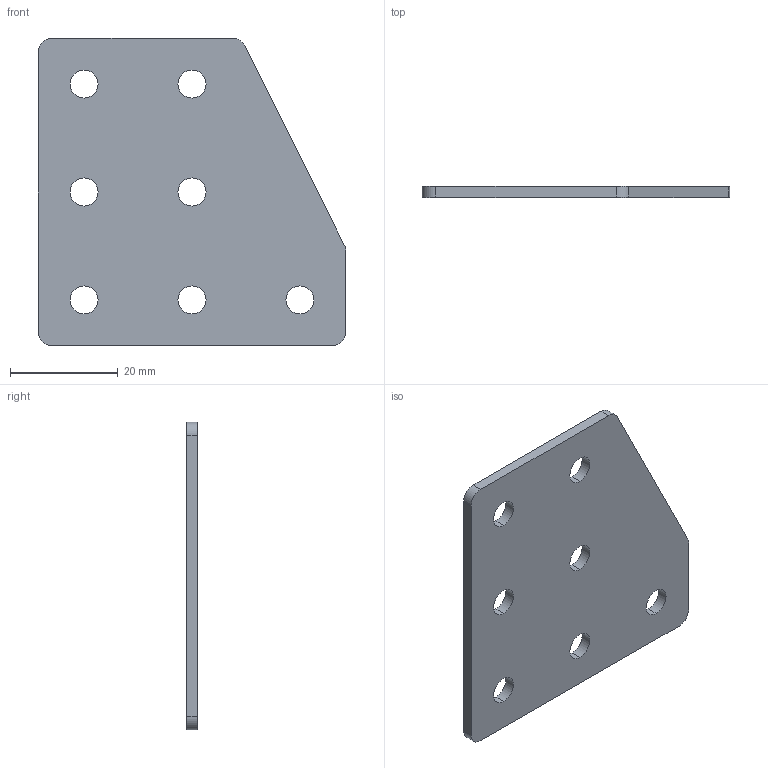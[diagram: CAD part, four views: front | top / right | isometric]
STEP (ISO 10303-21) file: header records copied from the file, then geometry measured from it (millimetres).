
FILE_DESCRIPTION (( 'STEP AP203' ), '1' );
FILE_NAME ('ﾃ-7-ﾓ-20.STEP', '2016-07-20T07:23:53', ( '' ), ( '' ), 'SwSTEP 2.0', 'SolidWorks 2014', '' );
FILE_SCHEMA (( 'CONFIG_CONTROL_DESIGN' ));
Length unit declared in the file: millimetre
Products named in the file (1): ﾃ-7-ﾓ-20
Bounding box: 57 x 2 x 57 mm (x, y, z)
Surface area: 6084.9 mm2 (no closed solid volume)
Topology: 0 solids, 1 shells, 26 faces, 72 edges, 48 vertices
Faces by surface type: cylinder 19, plane 7
Entity records: 959 total; most frequent: DIRECTION 164, CARTESIAN_POINT 147, ORIENTED_EDGE 144, EDGE_CURVE 72, AXIS2_PLACEMENT_3D 65, VERTEX_POINT 48, EDGE_LOOP 40, CIRCLE 38
